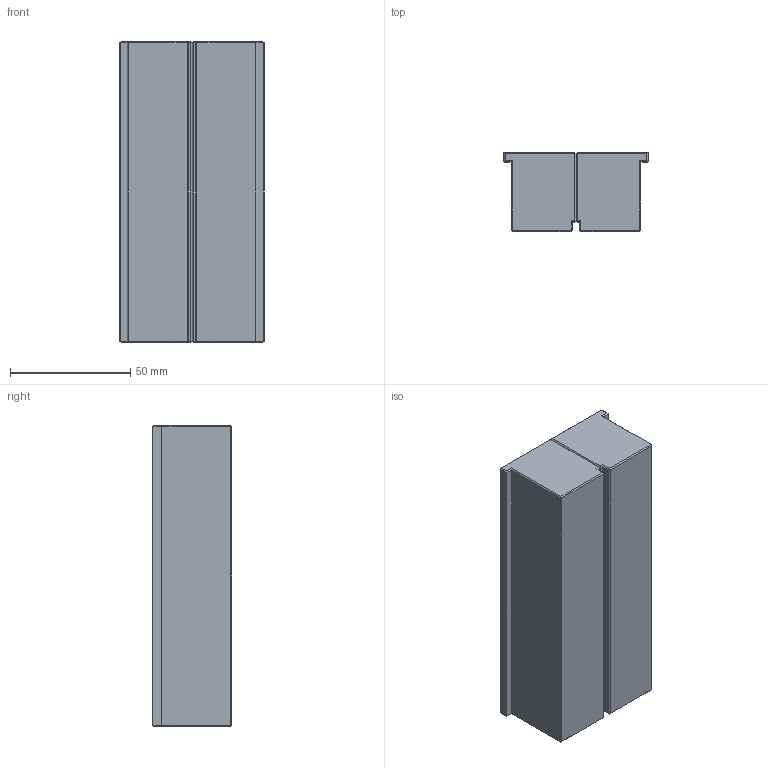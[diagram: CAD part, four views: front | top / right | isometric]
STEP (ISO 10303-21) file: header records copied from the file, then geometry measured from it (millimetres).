
FILE_DESCRIPTION (( 'STEP AP203' ), '1' );
FILE_NAME ('48409-125.STEP', '2021-08-10T08:29:41', ( '' ), ( '' ), 'SwSTEP 2.0', 'SolidWorks 2019', '' );
FILE_SCHEMA (( 'CONFIG_CONTROL_DESIGN' ));
Length unit declared in the file: millimetre
Products named in the file (2): 48409-2501; 48409-125
Assembly tree (2 placements, depth 2):
  48409-125
    48409-2501  x2
Bounding box: 60 x 33 x 125 mm (x, y, z)
Volume: 224053.5 mm3; surface area: 34588.1 mm2
Topology: 2 solids, 2 shells, 72 faces, 172 edges, 104 vertices
Faces by surface type: plane 72
Entity records: 1230 total; most frequent: CARTESIAN_POINT 179, ORIENTED_EDGE 172, DIRECTION 168, LINE 86, EDGE_CURVE 86, VECTOR 86, VERTEX_POINT 52, AXIS2_PLACEMENT_3D 41
